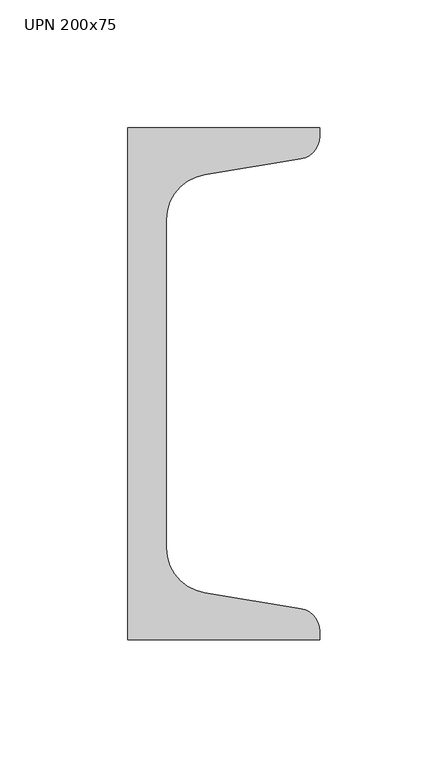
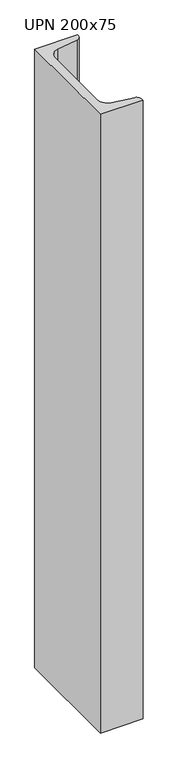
"""IFC4 building model written with IfcOpenShell, lengths in millimetres: column geometry, M_MC Shapes-Column : UPN 200x75."""

from ifc_helpers import new_model, si_unit, point, frame, frame_2d, origin, place, context, project, spatial, polyline, circle_curve, trimmed, segment, composite_curve, outline, extrude, source, transform, mapped, element, save


def upn_200x75_6a680606(model_context):
    return source(origin(), model_context, "Body", "SweptSolid", [
        extrude(outline(composite_curve([segment(polyline([(-26.4, -100.0), (-26.4, 100.0), (48.6, 100.0), (48.6, 96.7227759)]), True, "CONTINUOUS"), segment(trimmed(circle_curve(frame_2d((39.7, 96.7227759)), 8.9), [point((48.6, 96.7227759))], [point((41.1631538, 87.9438705))], False, "CARTESIAN"), True, "CONTINUOUS"), segment(polyline([(41.1631538, 87.9438705), (3.4736923, 81.662281)]), True, "CONTINUOUS"), segment(trimmed(circle_curve(frame_2d((6.4, 64.1044701)), 17.8), [point((3.4736923, 81.662281))], [point((-11.4, 64.1044701))], True, "CARTESIAN"), True, "CONTINUOUS"), segment(polyline([(-11.4, 64.1044701), (-11.4, -64.1044701)]), True, "CONTINUOUS"), segment(trimmed(circle_curve(frame_2d((6.4, -64.1044701)), 17.8), [point((-11.4, -64.1044701))], [point((3.4736923, -81.662281))], True, "CARTESIAN"), True, "CONTINUOUS"), segment(polyline([(3.4736923, -81.662281), (41.1631538, -87.9438705)]), True, "CONTINUOUS"), segment(trimmed(circle_curve(frame_2d((39.7, -96.7227759)), 8.9), [point((41.1631538, -87.9438705))], [point((48.6, -96.7227759))], False, "CARTESIAN"), True, "CONTINUOUS"), segment(polyline([(48.6, -96.7227759), (48.6, -100.0), (-26.4, -100.0)]), True, "CONTINUOUS")], self_intersect=False)), frame((0.0, 0.0, 22410.0), z_axis=(0.0, 0.0, 1.0), x_axis=(1.0, 0.0, 0.0)), (0.0, 0.0, 1.0), 1150.0),
    ])


if __name__ == "__main__":
    model = new_model("IFC4")
    model_context = context("Model", 3, world=origin())
    ifc_project = project(units=[si_unit("LENGTHUNIT", "METRE", prefix="MILLI")], contexts=[model_context])
    site = spatial("IfcSite", under=ifc_project)
    building = spatial("IfcBuilding", under=site)
    placement = place(None, origin())
    upn_200x75_shape = upn_200x75_6a680606(model_context)
    element("IfcColumn", 1, ObjectType="M_MC Shapes-Column : UPN 200x75", at=placement, inside=building, context=model_context, shape_type="MappedRepresentation", body=[
        mapped(upn_200x75_shape, transform((0.0, 0.0, 0.0), x_axis=(1.0, 0.0, 0.0), y_axis=(0.0, 1.0, 0.0), z_axis=(0.0, 0.0, 1.0))),
    ])
    save(model, "model.ifc")
